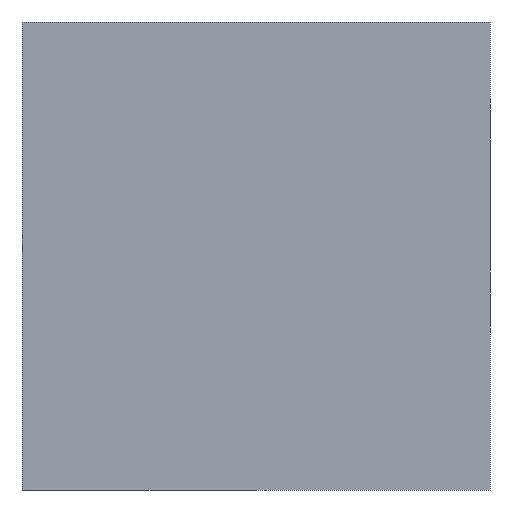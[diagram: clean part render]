
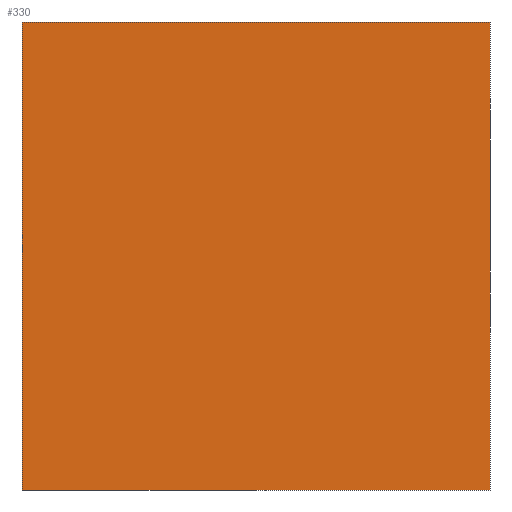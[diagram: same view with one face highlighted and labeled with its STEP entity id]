
A CAD part, left-side view. The second image highlights one B-rep face of the part: STEP entity #330.
In plain terms, the highlighted planar face has unit normal (-1, 0, 0).
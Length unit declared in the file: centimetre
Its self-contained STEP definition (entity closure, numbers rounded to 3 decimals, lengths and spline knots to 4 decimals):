
#5 = DIRECTION ( 'NONE',  ( 1., 0., 0. ) ) ;
#22 = CARTESIAN_POINT ( 'NONE',  ( 0., 1000., 1000. ) ) ;
#24 = DIRECTION ( 'NONE',  ( 0., 0., -1. ) ) ;
#30 = CARTESIAN_POINT ( 'NONE',  ( 0., 1000., 0. ) ) ;
#45 = VECTOR ( 'NONE', #24, 100. ) ;
#107 = VECTOR ( 'NONE', #514, 100. ) ;
#118 = CARTESIAN_POINT ( 'NONE',  ( 0., 0., 0. ) ) ;
#154 = LINE ( 'NONE', #30, #107 ) ;
#199 = VECTOR ( 'NONE', #206, 100. ) ;
#206 = DIRECTION ( 'NONE',  ( 0., -1., 0. ) ) ;
#229 = EDGE_CURVE ( 'NONE', #420, #739, #154, .T. ) ;
#236 = DIRECTION ( 'NONE',  ( 0., 0., -1. ) ) ;
#272 = CARTESIAN_POINT ( 'NONE',  ( 0., 0., 1000. ) ) ;
#288 = EDGE_CURVE ( 'NONE', #345, #739, #444, .T. ) ;
#330 = ADVANCED_FACE ( 'NONE', ( #408 ), #433, .F. ) ;
#345 = VERTEX_POINT ( 'NONE', #484 ) ;
#381 = EDGE_LOOP ( 'NONE', ( #765, #711, #413, #743 ) ) ;
#408 = FACE_OUTER_BOUND ( 'NONE', #381, .T. ) ;
#413 = ORIENTED_EDGE ( 'NONE', *, *, #521, .F. ) ;
#417 = AXIS2_PLACEMENT_3D ( 'NONE', #526, #5, #236 ) ;
#420 = VERTEX_POINT ( 'NONE', #472 ) ;
#433 = PLANE ( 'NONE',  #417 ) ;
#444 = LINE ( 'NONE', #272, #45 ) ;
#455 = DIRECTION ( 'NONE',  ( 0., 0., -1. ) ) ;
#472 = CARTESIAN_POINT ( 'NONE',  ( 0., 1000., 0. ) ) ;
#484 = CARTESIAN_POINT ( 'NONE',  ( 0., 0., 1000. ) ) ;
#512 = CARTESIAN_POINT ( 'NONE',  ( 0., 1000., 1000. ) ) ;
#514 = DIRECTION ( 'NONE',  ( 0., -1., 0. ) ) ;
#521 = EDGE_CURVE ( 'NONE', #564, #345, #560, .T. ) ;
#526 = CARTESIAN_POINT ( 'NONE',  ( 0., 1000., 1000. ) ) ;
#546 = EDGE_CURVE ( 'NONE', #564, #420, #556, .T. ) ;
#556 = LINE ( 'NONE', #614, #704 ) ;
#560 = LINE ( 'NONE', #512, #199 ) ;
#564 = VERTEX_POINT ( 'NONE', #22 ) ;
#614 = CARTESIAN_POINT ( 'NONE',  ( 0., 1000., 1000. ) ) ;
#704 = VECTOR ( 'NONE', #455, 100. ) ;
#711 = ORIENTED_EDGE ( 'NONE', *, *, #288, .F. ) ;
#739 = VERTEX_POINT ( 'NONE', #118 ) ;
#743 = ORIENTED_EDGE ( 'NONE', *, *, #546, .T. ) ;
#765 = ORIENTED_EDGE ( 'NONE', *, *, #229, .T. ) ;
